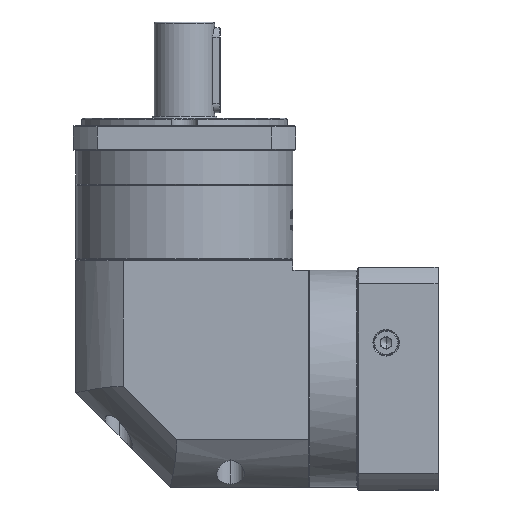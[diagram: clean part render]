
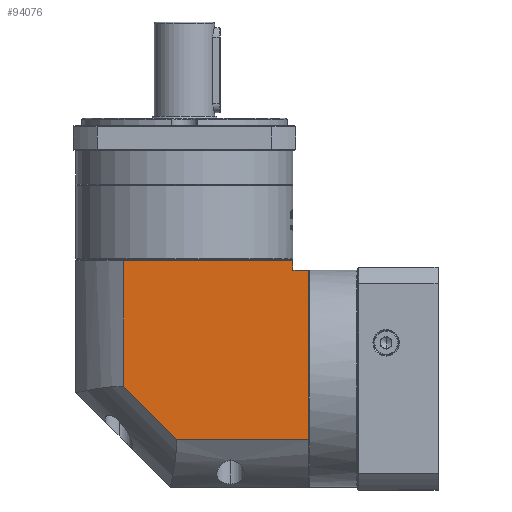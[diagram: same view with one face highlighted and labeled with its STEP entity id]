
A CAD part, left-side view. The second image highlights one B-rep face of the part: STEP entity #94076.
In plain terms, the highlighted planar face has unit normal (-1, 0, 0).
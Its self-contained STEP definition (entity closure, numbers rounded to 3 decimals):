
#346 = ORIENTED_EDGE ( 'NONE', *, *, #108453, .F. ) ;
#413 = LINE ( 'NONE', #158893, #37418 ) ;
#1750 = CARTESIAN_POINT ( 'NONE',  ( -248.495, -7.022, 104.88 ) ) ;
#2251 = LINE ( 'NONE', #31669, #90436 ) ;
#2907 = EDGE_CURVE ( 'NONE', #34849, #110517, #35009, .T. ) ;
#4296 = CARTESIAN_POINT ( 'NONE',  ( -248.495, -105.321, 111.38 ) ) ;
#7117 = AXIS2_PLACEMENT_3D ( 'NONE', #93862, #159751, #15324 ) ;
#7696 = FACE_OUTER_BOUND ( 'NONE', #81893, .T. ) ;
#8250 = CARTESIAN_POINT ( 'NONE',  ( -248.495, 18.079, 9.98 ) ) ;
#9535 = VERTEX_POINT ( 'NONE', #38249 ) ;
#12429 = EDGE_CURVE ( 'NONE', #142405, #34849, #136004, .T. ) ;
#12548 = EDGE_CURVE ( 'NONE', #91252, #111985, #12816, .T. ) ;
#12816 = LINE ( 'NONE', #8250, #66054 ) ;
#15020 = DIRECTION ( 'NONE',  ( 0., 1., 0. ) ) ;
#15212 = CARTESIAN_POINT ( 'NONE',  ( -248.495, -7.022, 111.38 ) ) ;
#15324 = DIRECTION ( 'NONE',  ( 0., 1., 0. ) ) ;
#18876 = CARTESIAN_POINT ( 'NONE',  ( -248.495, -96.921, -15.12 ) ) ;
#20738 = ORIENTED_EDGE ( 'NONE', *, *, #92716, .T. ) ;
#21003 = CARTESIAN_POINT ( 'NONE',  ( -248.495, -7.022, 38.319 ) ) ;
#22999 = ORIENTED_EDGE ( 'NONE', *, *, #59412, .T. ) ;
#30049 = VECTOR ( 'NONE', #82790, 1000. ) ;
#31669 = CARTESIAN_POINT ( 'NONE',  ( -248.495, -35.36, 9.98 ) ) ;
#34849 = VERTEX_POINT ( 'NONE', #1750 ) ;
#35009 = LINE ( 'NONE', #52112, #164330 ) ;
#37418 = VECTOR ( 'NONE', #15020, 1000. ) ;
#38249 = CARTESIAN_POINT ( 'NONE',  ( -248.495, -96.921, 99.88 ) ) ;
#44516 = ORIENTED_EDGE ( 'NONE', *, *, #12429, .F. ) ;
#45654 = VECTOR ( 'NONE', #80006, 1000. ) ;
#48426 = LINE ( 'NONE', #4296, #30049 ) ;
#52037 = CARTESIAN_POINT ( 'NONE',  ( -248.495, -96.921, 104.88 ) ) ;
#52112 = CARTESIAN_POINT ( 'NONE',  ( -248.495, 18.079, 104.88 ) ) ;
#58581 = DIRECTION ( 'NONE',  ( 0., 0.707, 0.707 ) ) ;
#59412 = EDGE_CURVE ( 'NONE', #9535, #110517, #88644, .T. ) ;
#60760 = CARTESIAN_POINT ( 'NONE',  ( -248.495, -105.321, 99.88 ) ) ;
#64166 = DIRECTION ( 'NONE',  ( 0., -1., 0. ) ) ;
#66054 = VECTOR ( 'NONE', #100529, 1000. ) ;
#72310 = ORIENTED_EDGE ( 'NONE', *, *, #2907, .F. ) ;
#78137 = CARTESIAN_POINT ( 'NONE',  ( -248.495, -35.36, 9.98 ) ) ;
#79725 = ORIENTED_EDGE ( 'NONE', *, *, #160386, .F. ) ;
#80006 = DIRECTION ( 'NONE',  ( 0., 0., 1. ) ) ;
#81893 = EDGE_LOOP ( 'NONE', ( #44516, #346, #94561, #79725, #20738, #22999, #72310 ) ) ;
#82790 = DIRECTION ( 'NONE',  ( 0., 0., -1. ) ) ;
#88644 = LINE ( 'NONE', #18876, #131676 ) ;
#90436 = VECTOR ( 'NONE', #58581, 1000. ) ;
#91252 = VERTEX_POINT ( 'NONE', #118839 ) ;
#92716 = EDGE_CURVE ( 'NONE', #116449, #9535, #413, .T. ) ;
#93862 = CARTESIAN_POINT ( 'NONE',  ( -248.495, 18.079, 111.38 ) ) ;
#94076 = ADVANCED_FACE ( 'NONE', ( #7696 ), #121355, .F. ) ;
#94561 = ORIENTED_EDGE ( 'NONE', *, *, #12548, .F. ) ;
#100529 = DIRECTION ( 'NONE',  ( 0., 1., 0. ) ) ;
#108453 = EDGE_CURVE ( 'NONE', #111985, #142405, #2251, .T. ) ;
#110517 = VERTEX_POINT ( 'NONE', #52037 ) ;
#111985 = VERTEX_POINT ( 'NONE', #78137 ) ;
#116449 = VERTEX_POINT ( 'NONE', #60760 ) ;
#118839 = CARTESIAN_POINT ( 'NONE',  ( -248.495, -105.321, 9.98 ) ) ;
#121355 = PLANE ( 'NONE',  #7117 ) ;
#131676 = VECTOR ( 'NONE', #161643, 1000. ) ;
#136004 = LINE ( 'NONE', #15212, #45654 ) ;
#142405 = VERTEX_POINT ( 'NONE', #21003 ) ;
#158893 = CARTESIAN_POINT ( 'NONE',  ( -248.495, -96.921, 99.88 ) ) ;
#159751 = DIRECTION ( 'NONE',  ( 1., 0., 0. ) ) ;
#160386 = EDGE_CURVE ( 'NONE', #116449, #91252, #48426, .T. ) ;
#161643 = DIRECTION ( 'NONE',  ( 0., 0., 1. ) ) ;
#164330 = VECTOR ( 'NONE', #64166, 1000. ) ;
